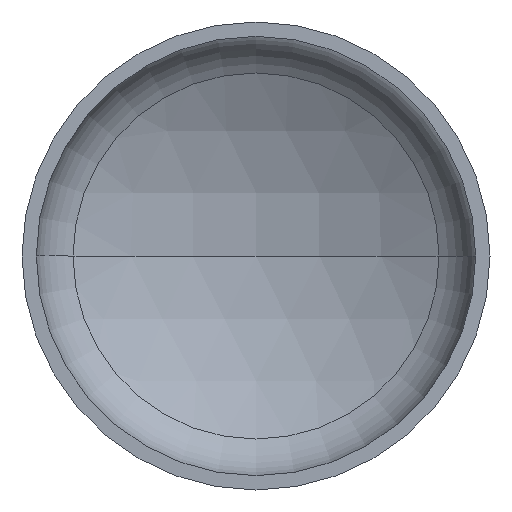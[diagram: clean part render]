
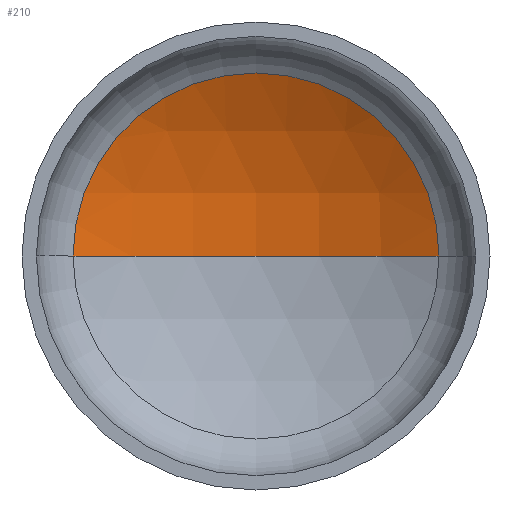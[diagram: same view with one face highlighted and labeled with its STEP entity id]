
A CAD part, front view. The second image highlights one B-rep face of the part: STEP entity #210.
In plain terms, the highlighted spherical face has radius 2560 mm.
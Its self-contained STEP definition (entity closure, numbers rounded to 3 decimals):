
#6 = CARTESIAN_POINT ( 'NONE',  ( 0., -1705.756, 0. ) ) ;
#8 = EDGE_LOOP ( 'NONE', ( #19, #352, #106 ) ) ;
#12 = CARTESIAN_POINT ( 'NONE',  ( 0., -1705.756, 0. ) ) ;
#13 = AXIS2_PLACEMENT_3D ( 'NONE', #273, #17, #243 ) ;
#17 = DIRECTION ( 'NONE',  ( 0., 0., -1. ) ) ;
#19 = ORIENTED_EDGE ( 'NONE', *, *, #76, .F. ) ;
#20 = AXIS2_PLACEMENT_3D ( 'NONE', #12, #261, #93 ) ;
#21 = AXIS2_PLACEMENT_3D ( 'NONE', #6, #234, #300 ) ;
#24 = AXIS2_PLACEMENT_3D ( 'NONE', #194, #196, #145 ) ;
#42 = VERTEX_POINT ( 'NONE', #373 ) ;
#73 = EDGE_CURVE ( 'NONE', #113, #217, #319, .T. ) ;
#75 = EDGE_CURVE ( 'NONE', #42, #113, #253, .T. ) ;
#76 = EDGE_CURVE ( 'NONE', #42, #217, #193, .T. ) ;
#93 = DIRECTION ( 'NONE',  ( 1., 0., 0. ) ) ;
#106 = ORIENTED_EDGE ( 'NONE', *, *, #73, .T. ) ;
#113 = VERTEX_POINT ( 'NONE', #386 ) ;
#145 = DIRECTION ( 'NONE',  ( 1., 0., 0. ) ) ;
#189 = FACE_OUTER_BOUND ( 'NONE', #8, .T. ) ;
#193 = CIRCLE ( 'NONE', #20, 2560. ) ;
#194 = CARTESIAN_POINT ( 'NONE',  ( 0., 527.45, 0. ) ) ;
#196 = DIRECTION ( 'NONE',  ( 0., -1., 0. ) ) ;
#210 = ADVANCED_FACE ( 'NONE', ( #189 ), #247, .F. ) ;
#217 = VERTEX_POINT ( 'NONE', #272 ) ;
#234 = DIRECTION ( 'NONE',  ( 0., 0., -1. ) ) ;
#243 = DIRECTION ( 'NONE',  ( -1., 0., 0. ) ) ;
#247 = SPHERICAL_SURFACE ( 'NONE', #13, 2560. ) ;
#253 = CIRCLE ( 'NONE', #21, 2560. ) ;
#261 = DIRECTION ( 'NONE',  ( 0., 0., 1. ) ) ;
#272 = CARTESIAN_POINT ( 'NONE',  ( -1251.556, 527.45, 0. ) ) ;
#273 = CARTESIAN_POINT ( 'NONE',  ( 0., -1705.756, 0. ) ) ;
#300 = DIRECTION ( 'NONE',  ( -1., 0., 0. ) ) ;
#319 = CIRCLE ( 'NONE', #24, 1251.556 ) ;
#352 = ORIENTED_EDGE ( 'NONE', *, *, #75, .T. ) ;
#373 = CARTESIAN_POINT ( 'NONE',  ( 0., 854.244, 0. ) ) ;
#386 = CARTESIAN_POINT ( 'NONE',  ( 1251.556, 527.45, 0. ) ) ;
